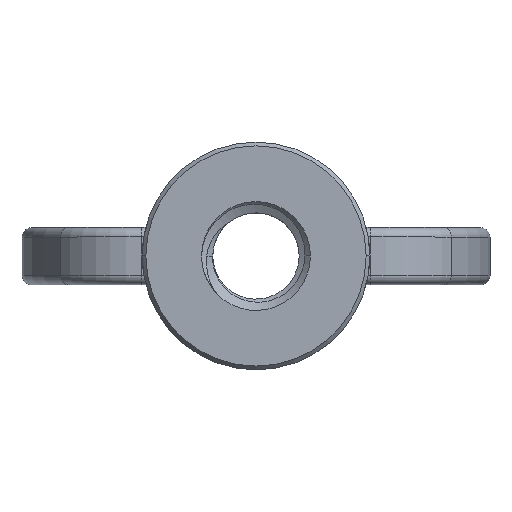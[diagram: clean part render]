
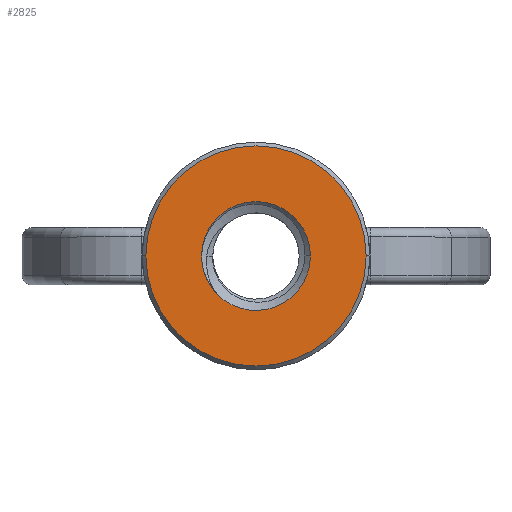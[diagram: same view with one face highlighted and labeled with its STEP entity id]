
A CAD part, top view. The second image highlights one B-rep face of the part: STEP entity #2825.
In plain terms, the highlighted planar face has unit normal (0, 0, 1).
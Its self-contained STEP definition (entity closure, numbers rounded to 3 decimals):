
#16 = EDGE_LOOP ( 'NONE', ( #391, #1199 ) ) ;
#166 = DIRECTION ( 'NONE',  ( 0., 0., 1. ) ) ;
#358 = CARTESIAN_POINT ( 'NONE',  ( 0., 0., 0. ) ) ;
#374 = AXIS2_PLACEMENT_3D ( 'NONE', #358, #2157, #613 ) ;
#391 = ORIENTED_EDGE ( 'NONE', *, *, #912, .T. ) ;
#409 = DIRECTION ( 'NONE',  ( 0., 0., 1. ) ) ;
#453 = CARTESIAN_POINT ( 'NONE',  ( 0., 0., 0. ) ) ;
#513 = CARTESIAN_POINT ( 'NONE',  ( 2.5, 0., 0. ) ) ;
#601 = CIRCLE ( 'NONE', #855, 5.057 ) ;
#613 = DIRECTION ( 'NONE',  ( 1., 0., 0. ) ) ;
#714 = PLANE ( 'NONE',  #1078 ) ;
#734 = DIRECTION ( 'NONE',  ( 0., 0., 1. ) ) ;
#750 = ORIENTED_EDGE ( 'NONE', *, *, #2741, .F. ) ;
#855 = AXIS2_PLACEMENT_3D ( 'NONE', #2275, #734, #2512 ) ;
#912 = EDGE_CURVE ( 'NONE', #1799, #1427, #601, .T. ) ;
#965 = DIRECTION ( 'NONE',  ( 1., 0., 0. ) ) ;
#1078 = AXIS2_PLACEMENT_3D ( 'NONE', #453, #1473, #965 ) ;
#1180 = CIRCLE ( 'NONE', #1874, 2.5 ) ;
#1199 = ORIENTED_EDGE ( 'NONE', *, *, #3193, .T. ) ;
#1376 = VERTEX_POINT ( 'NONE', #2128 ) ;
#1427 = VERTEX_POINT ( 'NONE', #2881 ) ;
#1451 = CARTESIAN_POINT ( 'NONE',  ( 0., 0., 0. ) ) ;
#1473 = DIRECTION ( 'NONE',  ( 0., 0., 1. ) ) ;
#1542 = FACE_BOUND ( 'NONE', #2243, .T. ) ;
#1573 = CIRCLE ( 'NONE', #374, 2.5 ) ;
#1622 = FACE_OUTER_BOUND ( 'NONE', #16, .T. ) ;
#1711 = EDGE_CURVE ( 'NONE', #2599, #1376, #1573, .T. ) ;
#1719 = CARTESIAN_POINT ( 'NONE',  ( 0., 0., 0. ) ) ;
#1723 = DIRECTION ( 'NONE',  ( 1., 0., 0. ) ) ;
#1732 = AXIS2_PLACEMENT_3D ( 'NONE', #1451, #3190, #1723 ) ;
#1799 = VERTEX_POINT ( 'NONE', #2631 ) ;
#1874 = AXIS2_PLACEMENT_3D ( 'NONE', #1950, #409, #2212 ) ;
#1950 = CARTESIAN_POINT ( 'NONE',  ( 0., 0., 0. ) ) ;
#1974 = DIRECTION ( 'NONE',  ( 1., 0., 0. ) ) ;
#2128 = CARTESIAN_POINT ( 'NONE',  ( -2.5, 0., 0. ) ) ;
#2157 = DIRECTION ( 'NONE',  ( 0., 0., 1. ) ) ;
#2212 = DIRECTION ( 'NONE',  ( 1., 0., 0. ) ) ;
#2243 = EDGE_LOOP ( 'NONE', ( #2740, #750, #2795 ) ) ;
#2275 = CARTESIAN_POINT ( 'NONE',  ( 0., 0., 0. ) ) ;
#2304 = CARTESIAN_POINT ( 'NONE',  ( -1.784, -1.752, 0. ) ) ;
#2512 = DIRECTION ( 'NONE',  ( 1., 0., 0. ) ) ;
#2577 = VERTEX_POINT ( 'NONE', #2304 ) ;
#2599 = VERTEX_POINT ( 'NONE', #513 ) ;
#2631 = CARTESIAN_POINT ( 'NONE',  ( -5.057, 0., 0. ) ) ;
#2656 = EDGE_CURVE ( 'NONE', #2577, #2599, #1180, .T. ) ;
#2740 = ORIENTED_EDGE ( 'NONE', *, *, #2656, .F. ) ;
#2741 = EDGE_CURVE ( 'NONE', #1376, #2577, #3016, .T. ) ;
#2795 = ORIENTED_EDGE ( 'NONE', *, *, #1711, .F. ) ;
#2825 = ADVANCED_FACE ( 'NONE', ( #1622, #1542 ), #714, .T. ) ;
#2875 = AXIS2_PLACEMENT_3D ( 'NONE', #1719, #166, #1974 ) ;
#2881 = CARTESIAN_POINT ( 'NONE',  ( 5.057, 0., 0. ) ) ;
#2908 = CIRCLE ( 'NONE', #1732, 5.057 ) ;
#3016 = CIRCLE ( 'NONE', #2875, 2.5 ) ;
#3190 = DIRECTION ( 'NONE',  ( 0., 0., 1. ) ) ;
#3193 = EDGE_CURVE ( 'NONE', #1427, #1799, #2908, .T. ) ;
